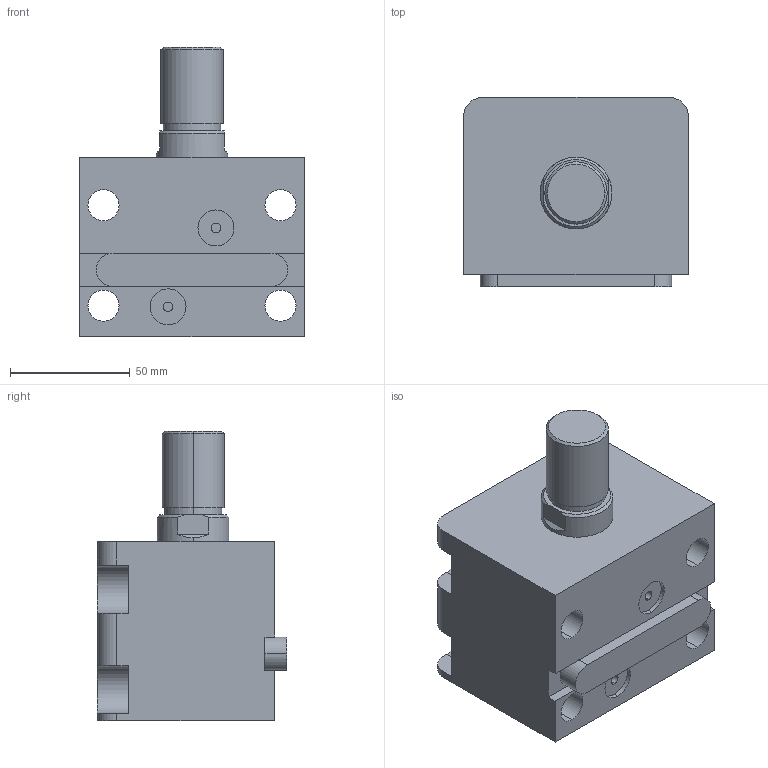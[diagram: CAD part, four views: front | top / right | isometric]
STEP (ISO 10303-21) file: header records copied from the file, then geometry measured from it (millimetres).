
FILE_DESCRIPTION (( 'STEP AP203' ), '1' );
FILE_NAME ('HTB-LAM50-15W.STEP', '2023-03-20T00:43:40', ( '微软用户' ), ( '微软中国' ), 'SwSTEP 2.0', 'SolidWorks 2012', '' );
FILE_SCHEMA (( 'CONFIG_CONTROL_DESIGN' ));
Length unit declared in the file: millimetre
Products named in the file (4): HTB-LAM50-15W; HTB-LWM50-瑩; HTB-LAM50-15W活塞杆; HTB-LAM50-15掛极
Assembly tree (3 placements, depth 2):
  HTB-LAM50-15W
    HTB-LAM50-15掛极
    HTB-LAM50-15W活塞杆
    HTB-LWM50-瑩
Bounding box: 94 x 79 x 121 mm (x, y, z)
Volume: 480085.4 mm3; surface area: 80074.7 mm2
Topology: 3 solids, 3 shells, 90 faces, 219 edges, 144 vertices
Faces by surface type: cylinder 41, plane 41, cone 4, torus 4
Entity records: 3107 total; most frequent: DIRECTION 497, CARTESIAN_POINT 487, ORIENTED_EDGE 438, EDGE_CURVE 219, AXIS2_PLACEMENT_3D 190, VERTEX_POINT 144, VECTOR 117, LINE 117
